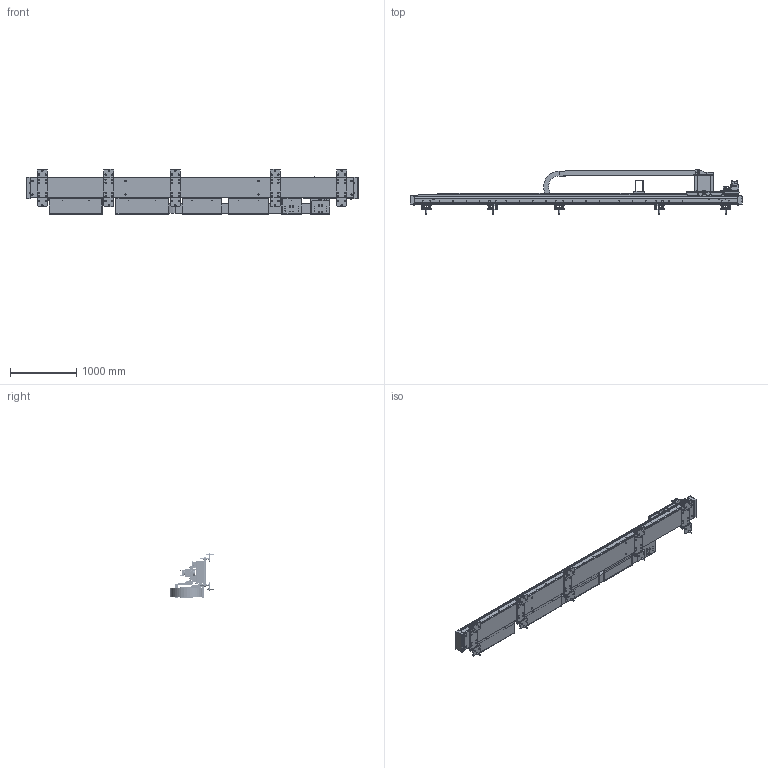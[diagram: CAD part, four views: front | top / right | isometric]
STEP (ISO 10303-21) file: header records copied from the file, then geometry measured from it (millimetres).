
FILE_DESCRIPTION (( 'STEP AP214' ), '1' );
FILE_NAME ('306535-400-1(TM1040_4000TR)_ŽÐŠOŒü‚¯.STEP', '2024-05-14T01:49:49', ( '' ), ( '' ), 'SwSTEP 2.0', 'SolidWorks 2021', '' );
FILE_SCHEMA (( 'AUTOMOTIVE_DESIGN' ));
Length unit declared in the file: millimetre
Products named in the file (3): 306535-100-0_可動部 Assy_社外向け; 306535-400-1(TM1040_4000TR)_社外向け; 306535-400-1(TM1040_4000TR)_固定部
Assembly tree (2 placements, depth 2):
  306535-400-1(TM1040_4000TR)_社外向け
    306535-400-1(TM1040_4000TR)_固定部
    306535-100-0_可動部 Assy_社外向け
Bounding box: 4994 x 662 x 682.5 mm (x, y, z)
Surface area: 16783752.7 mm2 (no closed solid volume)
Topology: 0 solids, 581 shells, 3616 faces, 13065 edges, 9843 vertices
Faces by surface type: plane 2106, cylinder 1139, cone 248, bspline 101, torus 20, sphere 2
Entity records: 187832 total; most frequent: CARTESIAN_POINT 33918, DIRECTION 24903, ORIENTED_EDGE 19231, EDGE_CURVE 13045, VERTEX_POINT 9843, AXIS2_PLACEMENT_3D 9033, LINE 6837, VECTOR 6837
